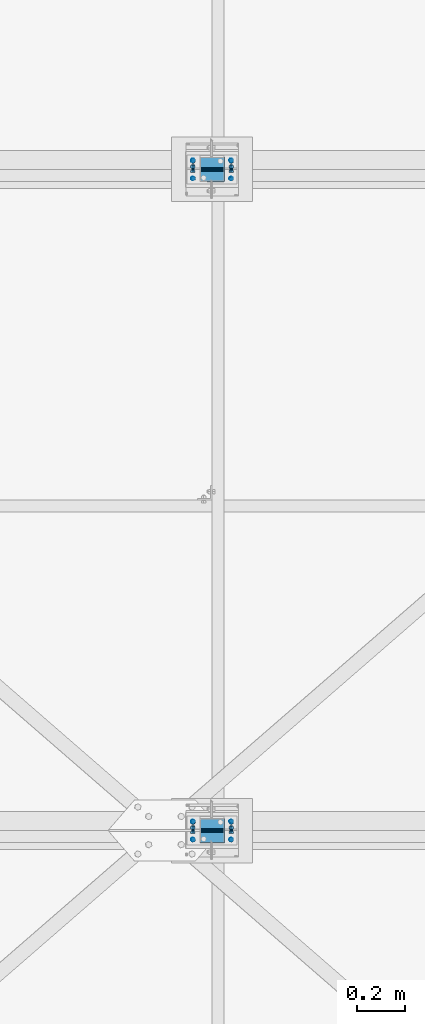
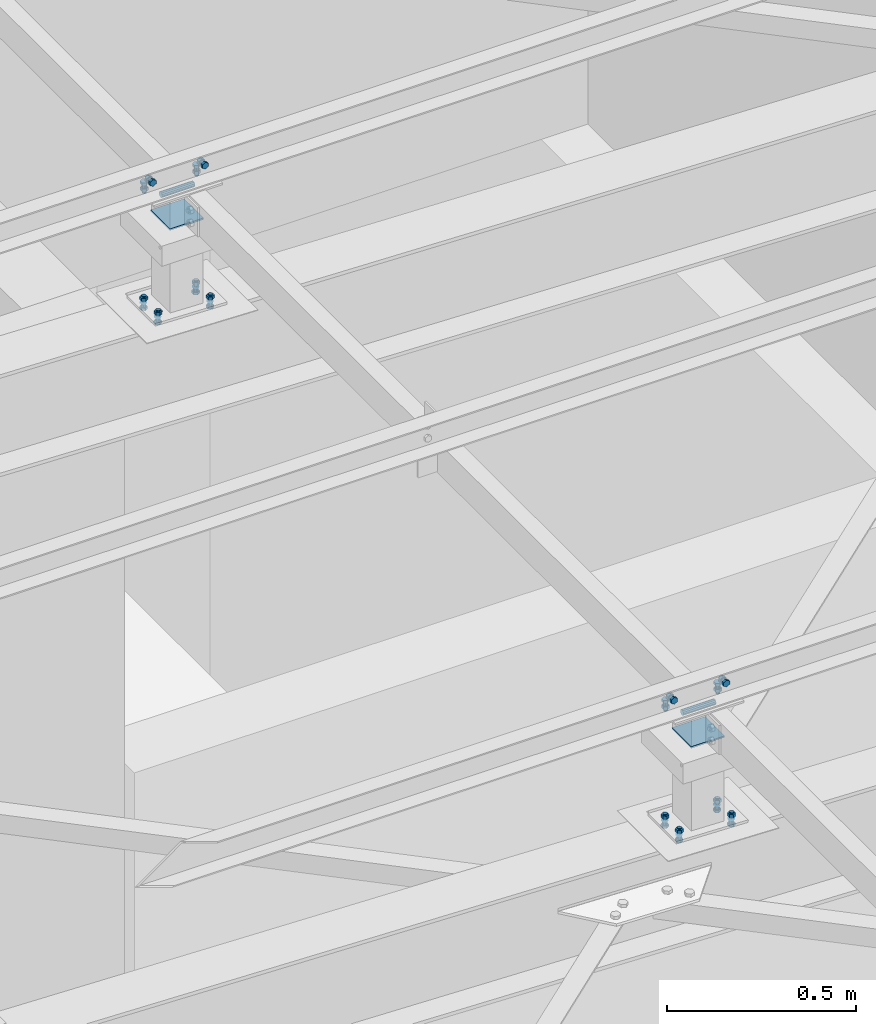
# One storey, part 239 of 3134: 12 mechanical fasteners, 8 elements without a shape of their own.
"""IFC2X3 building model written with IfcOpenShell, lengths in millimetres."""

from ifc_helpers import new_model, si_unit, frame, origin_with_axes, place, context, subcontext, project, spatial, faceted_brep, source, transform, mapped, material, type_object, element, aggregate, save


model = new_model("IFC2X3")

# Units and contexts
model_context = context("Model", 3, precision=1e-05, world=origin_with_axes())
body_context = subcontext(model_context, "Body", "Model", "MODEL_VIEW")
ifc_project = project(units=[si_unit("LENGTHUNIT", "METRE", prefix="MILLI"), si_unit("AREAUNIT", "SQUARE_METRE"), si_unit("VOLUMEUNIT", "CUBIC_METRE"), si_unit("MASSUNIT", "GRAM", prefix="KILO"), si_unit("TIMEUNIT", "SECOND"), si_unit("PLANEANGLEUNIT", "RADIAN"), si_unit("SOLIDANGLEUNIT", "STERADIAN"), si_unit("THERMODYNAMICTEMPERATUREUNIT", "DEGREE_CELSIUS"), si_unit("LUMINOUSINTENSITYUNIT", "LUMEN")], contexts=[model_context])

# Site, building, storey
site_placement = place(None, origin_with_axes())
site = spatial("IfcSite", under=ifc_project, at=site_placement, CompositionType="ELEMENT")
building_placement = place(site_placement, origin_with_axes())
building = spatial("IfcBuilding", under=site, at=building_placement, Name="Undefined", CompositionType="ELEMENT")
storey_placement = place(building_placement, origin_with_axes())
storey = spatial("IfcBuildingStorey", under=building, at=storey_placement, Name="Undefined", CompositionType="ELEMENT", Elevation=0.0)

# Assembly, mechanical fastener
assembly_1_placement = place(storey_placement, origin_with_axes())
assembly_1 = element("IfcElementAssembly", 1, at=assembly_1_placement, inside=storey, AssemblyPlace="NOTDEFINED", PredefinedType="RIGID_FRAME")
ifc_material_1 = material(Name="8.8")
mechanical_fastener_type = type_object("IfcMechanicalFastenerType", Name="Bolt assembly")
shared_shape_1 = source(origin_with_axes(), body_context, "Body", "Brep", [
    faceted_brep([(10.9696551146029, -14.0, 0.0), (5.48482755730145, -14.0, 9.5), (-5.48482755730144, -14.0, 9.5), (-10.9696551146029, -14.0, 1.34339530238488e-15), (-5.48482755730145, -14.0, -9.5), (5.48482755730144, -14.0, -9.50000000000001), (5.48482755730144, -6.0, -9.50000000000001), (-5.48482755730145, -6.0, -9.5), (-10.9696551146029, -6.0, 1.34339530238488e-15), (-5.48482755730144, -6.0, 9.5), (5.48482755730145, -6.0, 9.5), (10.9696551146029, -6.0, 0.0), (6.0, -6.0, 0.0), (5.19615242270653, -6.0, 3.00000000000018), (2.99999999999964, -6.0, 5.19615242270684), (-6.21801588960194e-13, -6.0, 6.0), (-3.00000000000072, -6.0, 5.19615242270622), (-5.19615242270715, -6.0, 2.9999999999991), (-6.0, -6.0, -1.24360317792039e-12), (-5.19615242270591, -6.0, -3.00000000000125), (-2.99999999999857, -6.0, -5.19615242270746), (1.85874342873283e-12, -6.0, -6.0), (3.00000000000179, -6.0, -5.1961524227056), (5.19615242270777, -6.0, -2.99999999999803), (5.19615242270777, 24.0, -2.99999999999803), (3.00000000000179, 24.0, -5.1961524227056), (1.85874342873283e-12, 24.0, -6.0), (-2.99999999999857, 24.0, -5.19615242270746), (-5.19615242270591, 24.0, -3.00000000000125), (-6.0, 24.0, -1.24360317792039e-12), (-5.19615242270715, 24.0, 2.9999999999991), (-3.00000000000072, 24.0, 5.19615242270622), (-6.21801588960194e-13, 24.0, 6.0), (2.99999999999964, 24.0, 5.19615242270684), (5.19615242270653, 24.0, 3.00000000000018), (6.0, 24.0, 0.0), (10.9696551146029, 6.00000000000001, 0.0), (5.48482755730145, 6.00000000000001, 9.5), (-5.48482755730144, 6.00000000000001, 9.5), (-10.9696551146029, 6.00000000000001, 1.34339530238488e-15), (-5.48482755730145, 6.00000000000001, -9.5), (5.48482755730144, 6.00000000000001, -9.50000000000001), (5.48482755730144, 16.0, -9.50000000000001), (-5.48482755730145, 16.0, -9.5), (-10.9696551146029, 16.0, 1.34339530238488e-15), (-5.48482755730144, 16.0, 9.5), (5.48482755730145, 16.0, 9.5), (10.9696551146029, 16.0, 0.0)], [[[0, 1, 2, 3, 4, 5]], [[6, 7, 8, 9, 10, 11]], [[0, 11, 10, 1]], [[1, 10, 9, 2]], [[2, 9, 8, 3]], [[3, 8, 7, 4]], [[4, 7, 6, 5]], [[5, 6, 11, 0]], [[12, 13, 14, 15, 16, 17, 18, 19, 20, 21, 22, 23]], [[24, 25, 26, 27, 28, 29, 30, 31, 32, 33, 34, 35]], [[12, 35, 34, 13]], [[13, 34, 33, 14]], [[14, 33, 32, 15]], [[15, 32, 31, 16]], [[16, 31, 30, 17]], [[17, 30, 29, 18]], [[18, 29, 28, 19]], [[19, 28, 27, 20]], [[20, 27, 26, 21]], [[21, 26, 25, 22]], [[22, 25, 24, 23]], [[23, 24, 35, 12]], [[36, 37, 38, 39, 40, 41]], [[42, 43, 44, 45, 46, 47]], [[36, 47, 46, 37]], [[37, 46, 45, 38]], [[38, 45, 44, 39]], [[39, 44, 43, 40]], [[40, 43, 42, 41]], [[41, 42, 47, 36]]]),
    faceted_brep([(7.0, -0.1, 0.0), (6.06217782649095, -0.1, 3.50000000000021), (3.49999999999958, -0.1, 6.06217782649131), (-7.25435187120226e-13, -0.1, 7.0), (-3.50000000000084, -0.1, 6.06217782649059), (-6.06217782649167, -0.1, 3.49999999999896), (-7.0, -0.1, -1.45087037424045e-12), (-6.06217782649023, -0.1, -3.50000000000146), (-3.49999999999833, -0.1, -6.06217782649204), (2.1685340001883e-12, -0.1, -7.0), (3.50000000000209, -0.1, -6.06217782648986), (6.0621778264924, -0.1, -3.4999999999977), (6.0621778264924, 6.00000000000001, -3.4999999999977), (3.50000000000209, 6.00000000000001, -6.06217782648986), (2.1685340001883e-12, 6.00000000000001, -7.0), (-3.49999999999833, 6.00000000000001, -6.06217782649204), (-6.06217782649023, 6.00000000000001, -3.50000000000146), (-7.0, 6.00000000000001, -1.45087037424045e-12), (-6.06217782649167, 6.00000000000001, 3.49999999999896), (-3.50000000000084, 6.00000000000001, 6.06217782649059), (-7.25435187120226e-13, 6.00000000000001, 7.0), (3.49999999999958, 6.00000000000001, 6.06217782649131), (6.06217782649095, 6.00000000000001, 3.50000000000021), (7.0, 6.00000000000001, 0.0), (7.0, -5.9, 0.0), (6.06217782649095, -5.9, 3.50000000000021), (3.49999999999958, -5.9, 6.06217782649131), (-7.25435187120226e-13, -5.9, 7.0), (-3.50000000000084, -5.9, 6.06217782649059), (-6.06217782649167, -5.9, 3.49999999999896), (-7.0, -5.9, -1.45087037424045e-12), (-6.06217782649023, -5.9, -3.50000000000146), (-3.49999999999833, -5.9, -6.06217782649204), (2.1685340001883e-12, -5.9, -7.0), (3.50000000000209, -5.9, -6.06217782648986), (6.0621778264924, -5.9, -3.4999999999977), (6.0621778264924, 0.0999999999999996, -3.4999999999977), (3.50000000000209, 0.0999999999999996, -6.06217782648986), (2.1685340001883e-12, 0.0999999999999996, -7.0), (-3.49999999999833, 0.0999999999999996, -6.06217782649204), (-6.06217782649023, 0.0999999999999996, -3.50000000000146), (-7.0, 0.0999999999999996, -1.45087037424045e-12), (-6.06217782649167, 0.0999999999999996, 3.49999999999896), (-3.50000000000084, 0.0999999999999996, 6.06217782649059), (-7.25435187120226e-13, 0.0999999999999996, 7.0), (3.49999999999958, 0.0999999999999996, 6.06217782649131), (6.06217782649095, 0.0999999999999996, 3.50000000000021), (7.0, 0.0999999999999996, 0.0)], [[[0, 1, 2, 3, 4, 5, 6, 7, 8, 9, 10, 11]], [[12, 13, 14, 15, 16, 17, 18, 19, 20, 21, 22, 23]], [[0, 23, 22, 1]], [[1, 22, 21, 2]], [[2, 21, 20, 3]], [[3, 20, 19, 4]], [[4, 19, 18, 5]], [[5, 18, 17, 6]], [[6, 17, 16, 7]], [[7, 16, 15, 8]], [[8, 15, 14, 9]], [[9, 14, 13, 10]], [[10, 13, 12, 11]], [[11, 12, 23, 0]], [[24, 25, 26, 27, 28, 29, 30, 31, 32, 33, 34, 35]], [[36, 37, 38, 39, 40, 41, 42, 43, 44, 45, 46, 47]], [[24, 47, 46, 25]], [[25, 46, 45, 26]], [[26, 45, 44, 27]], [[27, 44, 43, 28]], [[28, 43, 42, 29]], [[29, 42, 41, 30]], [[30, 41, 40, 31]], [[31, 40, 39, 32]], [[32, 39, 38, 33]], [[33, 38, 37, 34]], [[34, 37, 36, 35]], [[35, 36, 47, 24]]]),
])
mechanical_fastener_1_placement = place(assembly_1_placement, frame((23191.0, 58255.0, 10865.0), z_axis=(1.0, 0.0, 0.0), x_axis=(0.0, -1.0, 0.0)))
mechanical_fastener_1 = element("IfcMechanicalFastener", 2, at=mechanical_fastener_1_placement, type_object=mechanical_fastener_type, material=ifc_material_1, Name="Bolt assembly", NominalDiameter=12.0, NominalLength=30.0, context=body_context, shape_type="MappedRepresentation", body=[
    mapped(shared_shape_1, transform((0.0, -5.32963895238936e-10, -79.9999999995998))),
    mapped(shared_shape_1, transform((0.0, 5.3114490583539e-10, 79.9999999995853))),
])

assembly_2_placement = place(storey_placement, origin_with_axes())
assembly_2 = element("IfcElementAssembly", 3, at=assembly_2_placement, inside=storey, AssemblyPlace="NOTDEFINED", PredefinedType="RIGID_FRAME")
mechanical_fastener_2_placement = place(assembly_2_placement, frame((23191.0, 61020.0, 10865.0), z_axis=(1.0, 0.0, 0.0), x_axis=(0.0, -1.0, 0.0)))
mechanical_fastener_2 = element("IfcMechanicalFastener", 4, at=mechanical_fastener_2_placement, type_object=mechanical_fastener_type, material=ifc_material_1, Name="Bolt assembly", NominalDiameter=12.0, NominalLength=30.0, context=body_context, shape_type="MappedRepresentation", body=[
    mapped(shared_shape_1, transform((0.0, -5.32963895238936e-10, -79.9999999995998))),
    mapped(shared_shape_1, transform((0.0, 5.3114490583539e-10, 79.9999999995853))),
])

assembly_3_placement = place(storey_placement, origin_with_axes())
assembly_3 = element("IfcElementAssembly", 5, at=assembly_3_placement, inside=storey, AssemblyPlace="NOTDEFINED", PredefinedType="RIGID_FRAME")
shared_shape_2 = source(origin_with_axes(), body_context, "Body", "Brep", [
    faceted_brep([(7.0, 13.0000253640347, 0.0), (6.06217782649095, 13.0000253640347, 3.50000000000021), (3.49999999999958, 13.0000253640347, 6.06217782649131), (-7.25435187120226e-13, 13.0000253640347, 7.0), (-3.50000000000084, 13.0000253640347, 6.06217782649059), (-6.06217782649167, 13.0000253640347, 3.49999999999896), (-7.0, 13.0000253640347, -1.45087037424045e-12), (-6.06217782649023, 13.0000253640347, -3.50000000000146), (-3.49999999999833, 13.0000253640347, -6.06217782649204), (2.1685340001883e-12, 13.0000253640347, -7.0), (3.50000000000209, 13.0000253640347, -6.06217782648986), (6.0621778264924, 13.0000253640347, -3.4999999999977), (6.0621778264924, 15.0999999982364, -3.4999999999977), (3.50000000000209, 15.0999999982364, -6.06217782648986), (2.1685340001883e-12, 15.0999999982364, -7.0), (-3.49999999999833, 15.0999999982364, -6.06217782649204), (-6.06217782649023, 15.0999999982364, -3.50000000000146), (-7.0, 15.0999999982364, -1.45087037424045e-12), (-6.06217782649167, 15.0999999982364, 3.49999999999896), (-3.50000000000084, 15.0999999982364, 6.06217782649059), (-7.25435187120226e-13, 15.0999999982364, 7.0), (3.49999999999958, 15.0999999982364, 6.06217782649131), (6.06217782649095, 15.0999999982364, 3.50000000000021), (7.0, 15.0999999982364, 0.0)], [[[0, 1, 2, 3, 4, 5, 6, 7, 8, 9, 10, 11]], [[12, 13, 14, 15, 16, 17, 18, 19, 20, 21, 22, 23]], [[0, 23, 22, 1]], [[1, 22, 21, 2]], [[2, 21, 20, 3]], [[3, 20, 19, 4]], [[4, 19, 18, 5]], [[5, 18, 17, 6]], [[6, 17, 16, 7]], [[7, 16, 15, 8]], [[8, 15, 14, 9]], [[9, 14, 13, 10]], [[10, 13, 12, 11]], [[11, 12, 23, 0]]]),
])
mechanical_fastener_3_placement = place(assembly_3_placement, frame((23190.2251187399, 58258.0, 10467.1972055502), z_axis=(-0.99951962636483, 0.0, 0.0309922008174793), x_axis=(0.0, -1.0, 0.0)))
mechanical_fastener_3 = element("IfcMechanicalFastener", 6, at=mechanical_fastener_3_placement, type_object=mechanical_fastener_type, material=ifc_material_1, Name="Bolt assembly", NominalDiameter=12.0, NominalLength=2.0, context=body_context, shape_type="MappedRepresentation", body=[
    mapped(shared_shape_2, transform((0.0, -5.32963895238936e-10, -79.9999999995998))),
    mapped(shared_shape_2, transform((76.0, -5.32963895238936e-10, -79.9999999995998))),
    mapped(shared_shape_2, transform((0.0, 5.3114490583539e-10, 79.9999999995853))),
    mapped(shared_shape_2, transform((76.0, 5.3114490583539e-10, 79.9999999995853))),
])
aggregate(assembly_3, [mechanical_fastener_3])

assembly_4_placement = place(storey_placement, origin_with_axes())
assembly_4 = element("IfcElementAssembly", 7, at=assembly_4_placement, inside=storey, AssemblyPlace="NOTDEFINED", PredefinedType="RIGID_FRAME")
mechanical_fastener_4_placement = place(assembly_4_placement, frame((23190.2251187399, 61023.0, 10467.1972055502), z_axis=(-0.99951962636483, 0.0, 0.0309922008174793), x_axis=(0.0, -1.0, 0.0)))
mechanical_fastener_4 = element("IfcMechanicalFastener", 8, at=mechanical_fastener_4_placement, type_object=mechanical_fastener_type, material=ifc_material_1, Name="Bolt assembly", NominalDiameter=12.0, NominalLength=2.0, context=body_context, shape_type="MappedRepresentation", body=[
    mapped(shared_shape_2, transform((0.0, -5.32963895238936e-10, -79.9999999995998))),
    mapped(shared_shape_2, transform((76.0, -5.32963895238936e-10, -79.9999999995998))),
    mapped(shared_shape_2, transform((0.0, 5.3114490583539e-10, 79.9999999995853))),
    mapped(shared_shape_2, transform((76.0, 5.3114490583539e-10, 79.9999999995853))),
])
aggregate(assembly_4, [mechanical_fastener_4])

assembly_5_placement = place(storey_placement, origin_with_axes())
assembly_5 = element("IfcElementAssembly", 9, at=assembly_5_placement, inside=storey, AssemblyPlace="NOTDEFINED", PredefinedType="RIGID_FRAME")
shared_shape_3 = source(origin_with_axes(), body_context, "Body", "Brep", [
    faceted_brep([(9.0, -50.0, 0.0), (7.79422863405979, -50.0, 4.50000000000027), (4.49999999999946, -50.0, 7.79422863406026), (-9.3270238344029e-13, -50.0, 9.0), (-4.50000000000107, -50.0, 7.79422863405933), (-7.79422863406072, -50.0, 4.49999999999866), (-9.0, -50.0, -1.86540476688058e-12), (-7.79422863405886, -50.0, -4.50000000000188), (-4.49999999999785, -50.0, -7.79422863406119), (2.78811514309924e-12, -50.0, -9.0), (4.50000000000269, -50.0, -7.7942286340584), (7.79422863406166, -50.0, -4.49999999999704), (7.79422863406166, 50.1, -4.49999999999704), (4.50000000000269, 50.1, -7.7942286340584), (2.78811514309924e-12, 50.1, -9.0), (-4.49999999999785, 50.1, -7.79422863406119), (-7.79422863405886, 50.1, -4.50000000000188), (-9.0, 50.1, -1.86540476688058e-12), (-7.79422863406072, 50.1, 4.49999999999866), (-4.50000000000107, 50.1, 7.79422863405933), (-9.3270238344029e-13, 50.1, 9.0), (4.49999999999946, 50.1, 7.79422863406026), (7.79422863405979, 50.1, 4.50000000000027), (9.0, 50.1, 0.0)], [[[0, 1, 2, 3, 4, 5, 6, 7, 8, 9, 10, 11]], [[12, 13, 14, 15, 16, 17, 18, 19, 20, 21, 22, 23]], [[0, 23, 22, 1]], [[1, 22, 21, 2]], [[2, 21, 20, 3]], [[3, 20, 19, 4]], [[4, 19, 18, 5]], [[5, 18, 17, 6]], [[6, 17, 16, 7]], [[7, 16, 15, 8]], [[8, 15, 14, 9]], [[9, 14, 13, 10]], [[10, 13, 12, 11]], [[11, 12, 23, 0]]]),
])
mechanical_fastener_5_placement = place(assembly_5_placement, frame((23191.0, 58220.0, 10845.0), z_axis=(0.0, 1.0, 0.0), x_axis=(0.0, 0.0, 1.0)))
mechanical_fastener_5 = element("IfcMechanicalFastener", 10, at=mechanical_fastener_5_placement, type_object=mechanical_fastener_type, material=ifc_material_1, Name="Bolt assembly", NominalDiameter=16.0, NominalLength=100.0, context=body_context, shape_type="MappedRepresentation", body=[
    mapped(shared_shape_3, transform((0.0, 0.0, 0.0))),
])

assembly_6_placement = place(storey_placement, origin_with_axes())
assembly_6 = element("IfcElementAssembly", 11, at=assembly_6_placement, inside=storey, AssemblyPlace="NOTDEFINED", PredefinedType="RIGID_FRAME")
mechanical_fastener_6_placement = place(assembly_6_placement, frame((23191.0, 60985.0, 10845.0), z_axis=(0.0, 1.0, 0.0), x_axis=(0.0, 0.0, 1.0)))
mechanical_fastener_6 = element("IfcMechanicalFastener", 12, at=mechanical_fastener_6_placement, type_object=mechanical_fastener_type, material=ifc_material_1, Name="Bolt assembly", NominalDiameter=16.0, NominalLength=100.0, context=body_context, shape_type="MappedRepresentation", body=[
    mapped(shared_shape_3, transform((0.0, 0.0, 0.0))),
])

# Mechanical fastener
ifc_material_2 = material(Name="6.8")
shared_shape_4 = source(origin_with_axes(), body_context, "Body", "Brep", [
    faceted_brep([(51.5, 1.36424205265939e-12, 50.0), (51.3858192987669, 1.36424205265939e-12, 50.5740251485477), (51.0606601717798, 1.36424205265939e-12, 51.0606601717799), (50.5740251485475, 1.36424205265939e-12, 51.385819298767), (-50.0000000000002, 1.36424205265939e-12, 51.5), (-50.7500000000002, 1.36424205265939e-12, 51.2990381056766), (-51.2990381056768, 1.36424205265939e-12, 50.7499999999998), (-51.5, 1.36424205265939e-12, 49.9999999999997), (-51.5, 1.36424205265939e-12, -50.0000000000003), (-51.2990381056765, 1.36424205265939e-12, -50.7500000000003), (-50.7499999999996, 1.36424205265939e-12, -51.2990381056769), (-49.9999999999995, 1.36424205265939e-12, -51.5), (50.0000000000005, 1.36424205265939e-12, -51.5), (50.7500000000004, 1.36424205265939e-12, -51.2990381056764), (51.2990381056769, 1.36424205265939e-12, -50.7499999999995), (51.5, 1.36424205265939e-12, -49.9999999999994), (51.5, 5.10000000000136, -49.9999999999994), (51.2990381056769, 5.10000000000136, -50.7499999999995), (50.7500000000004, 5.10000000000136, -51.2990381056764), (50.0000000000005, 5.10000000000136, -51.5), (-49.9999999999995, 5.10000000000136, -51.5), (-50.7499999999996, 5.10000000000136, -51.2990381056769), (-51.2990381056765, 5.10000000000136, -50.7500000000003), (-51.5, 5.10000000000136, -50.0000000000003), (-51.5, 5.10000000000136, 49.9999999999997), (-51.2990381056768, 5.10000000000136, 50.7499999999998), (-50.7500000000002, 5.10000000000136, 51.2990381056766), (-50.0000000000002, 5.10000000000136, 51.5), (50.5740251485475, 5.10000000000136, 51.385819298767), (51.0606601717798, 5.10000000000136, 51.0606601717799), (51.3858192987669, 5.10000000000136, 50.5740251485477), (51.5, 5.10000000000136, 50.0)], [[[0, 1, 2, 3, 4, 5, 6, 7, 8, 9, 10, 11, 12, 13, 14, 15]], [[16, 17, 18, 19, 20, 21, 22, 23, 24, 25, 26, 27, 28, 29, 30, 31]], [[0, 31, 30, 1]], [[1, 30, 29, 2]], [[2, 29, 28, 3]], [[3, 28, 27, 4]], [[4, 27, 26, 5]], [[5, 26, 25, 6]], [[6, 25, 24, 7]], [[7, 24, 23, 8]], [[8, 23, 22, 9]], [[9, 22, 21, 10]], [[10, 21, 20, 11]], [[11, 20, 19, 12]], [[12, 19, 18, 13]], [[13, 18, 17, 14]], [[14, 17, 16, 15]], [[15, 16, 31, 0]]]),
])
mechanical_fastener_7_placement = place(assembly_5_placement, frame((23191.0, 58220.0, 10765.0), z_axis=(0.0, -1.0, 0.0), x_axis=(-1.0, 0.0, 0.0)))
mechanical_fastener_7 = element("IfcMechanicalFastener", 13, at=mechanical_fastener_7_placement, type_object=mechanical_fastener_type, material=ifc_material_2, Name="Bolt assembly", NominalDiameter=10.0, NominalLength=5.0, context=body_context, shape_type="MappedRepresentation", body=[
    mapped(shared_shape_4, transform((0.0, 0.0, 0.0))),
])

aggregate(assembly_5, [mechanical_fastener_7, mechanical_fastener_5])

mechanical_fastener_8_placement = place(assembly_6_placement, frame((23191.0, 60985.0, 10765.0), z_axis=(0.0, -1.0, 0.0), x_axis=(-1.0, 0.0, 0.0)))
mechanical_fastener_8 = element("IfcMechanicalFastener", 14, at=mechanical_fastener_8_placement, type_object=mechanical_fastener_type, material=ifc_material_2, Name="Bolt assembly", NominalDiameter=10.0, NominalLength=5.0, context=body_context, shape_type="MappedRepresentation", body=[
    mapped(shared_shape_4, transform((0.0, 0.0, 0.0))),
])

aggregate(assembly_6, [mechanical_fastener_8, mechanical_fastener_6])

shared_shape_5 = source(origin_with_axes(), body_context, "Body", "Brep", [
    faceted_brep([(10.9696551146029, -12.0, 0.0), (5.48482755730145, -12.0, 9.5), (-5.48482755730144, -12.0, 9.5), (-10.9696551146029, -12.0, 1.34339530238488e-15), (-5.48482755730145, -12.0, -9.5), (5.48482755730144, -12.0, -9.50000000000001), (5.48482755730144, -4.0, -9.50000000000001), (-5.48482755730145, -4.0, -9.5), (-10.9696551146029, -4.0, 1.34339530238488e-15), (-5.48482755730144, -4.0, 9.5), (5.48482755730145, -4.0, 9.5), (10.9696551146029, -4.0, 0.0), (6.0, -4.0, 0.0), (5.19615242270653, -4.0, 3.00000000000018), (2.99999999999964, -4.0, 5.19615242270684), (-6.21801588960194e-13, -4.0, 6.0), (-3.00000000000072, -4.0, 5.19615242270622), (-5.19615242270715, -4.0, 2.9999999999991), (-6.0, -4.0, -1.24360317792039e-12), (-5.19615242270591, -4.0, -3.00000000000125), (-2.99999999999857, -4.0, -5.19615242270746), (1.85874342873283e-12, -4.0, -6.0), (3.00000000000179, -4.0, -5.1961524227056), (5.19615242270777, -4.0, -2.99999999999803), (5.19615242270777, 21.0, -2.99999999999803), (3.00000000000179, 21.0, -5.1961524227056), (1.85874342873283e-12, 21.0, -6.0), (-2.99999999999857, 21.0, -5.19615242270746), (-5.19615242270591, 21.0, -3.00000000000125), (-6.0, 21.0, -1.24360317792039e-12), (-5.19615242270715, 21.0, 2.9999999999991), (-3.00000000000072, 21.0, 5.19615242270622), (-6.21801588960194e-13, 21.0, 6.0), (2.99999999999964, 21.0, 5.19615242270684), (5.19615242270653, 21.0, 3.00000000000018), (6.0, 21.0, 0.0), (10.9696551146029, 6.00000000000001, 0.0), (5.48482755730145, 6.00000000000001, 9.5), (-5.48482755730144, 6.00000000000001, 9.5), (-10.9696551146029, 6.00000000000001, 1.34339530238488e-15), (-5.48482755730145, 6.00000000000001, -9.5), (5.48482755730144, 6.00000000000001, -9.50000000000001), (5.48482755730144, 16.0, -9.50000000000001), (-5.48482755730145, 16.0, -9.5), (-10.9696551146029, 16.0, 1.34339530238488e-15), (-5.48482755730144, 16.0, 9.5), (5.48482755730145, 16.0, 9.5), (10.9696551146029, 16.0, 0.0)], [[[0, 1, 2, 3, 4, 5]], [[6, 7, 8, 9, 10, 11]], [[0, 11, 10, 1]], [[1, 10, 9, 2]], [[2, 9, 8, 3]], [[3, 8, 7, 4]], [[4, 7, 6, 5]], [[5, 6, 11, 0]], [[12, 13, 14, 15, 16, 17, 18, 19, 20, 21, 22, 23]], [[24, 25, 26, 27, 28, 29, 30, 31, 32, 33, 34, 35]], [[12, 35, 34, 13]], [[13, 34, 33, 14]], [[14, 33, 32, 15]], [[15, 32, 31, 16]], [[16, 31, 30, 17]], [[17, 30, 29, 18]], [[18, 29, 28, 19]], [[19, 28, 27, 20]], [[20, 27, 26, 21]], [[21, 26, 25, 22]], [[22, 25, 24, 23]], [[23, 24, 35, 12]], [[36, 37, 38, 39, 40, 41]], [[42, 43, 44, 45, 46, 47]], [[36, 47, 46, 37]], [[37, 46, 45, 38]], [[38, 45, 44, 39]], [[39, 44, 43, 40]], [[40, 43, 42, 41]], [[41, 42, 47, 36]]]),
    faceted_brep([(7.0, -3.9, 0.0), (6.06217782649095, -3.9, 3.50000000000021), (3.49999999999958, -3.9, 6.06217782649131), (-7.25435187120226e-13, -3.9, 7.0), (-3.50000000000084, -3.9, 6.06217782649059), (-6.06217782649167, -3.9, 3.49999999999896), (-7.0, -3.9, -1.45087037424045e-12), (-6.06217782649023, -3.9, -3.50000000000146), (-3.49999999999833, -3.9, -6.06217782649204), (2.1685340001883e-12, -3.9, -7.0), (3.50000000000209, -3.9, -6.06217782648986), (6.0621778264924, -3.9, -3.4999999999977), (6.0621778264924, 0.0999999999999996, -3.4999999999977), (3.50000000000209, 0.0999999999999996, -6.06217782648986), (2.1685340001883e-12, 0.0999999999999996, -7.0), (-3.49999999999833, 0.0999999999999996, -6.06217782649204), (-6.06217782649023, 0.0999999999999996, -3.50000000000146), (-7.0, 0.0999999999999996, -1.45087037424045e-12), (-6.06217782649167, 0.0999999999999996, 3.49999999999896), (-3.50000000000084, 0.0999999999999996, 6.06217782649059), (-7.25435187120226e-13, 0.0999999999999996, 7.0), (3.49999999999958, 0.0999999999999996, 6.06217782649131), (6.06217782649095, 0.0999999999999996, 3.50000000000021), (7.0, 0.0999999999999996, 0.0), (7.0, -0.1, 0.0), (6.06217782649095, -0.1, 3.50000000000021), (3.49999999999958, -0.1, 6.06217782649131), (-7.25435187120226e-13, -0.1, 7.0), (-3.50000000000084, -0.1, 6.06217782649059), (-6.06217782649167, -0.1, 3.49999999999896), (-7.0, -0.1, -1.45087037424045e-12), (-6.06217782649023, -0.1, -3.50000000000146), (-3.49999999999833, -0.1, -6.06217782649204), (2.1685340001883e-12, -0.1, -7.0), (3.50000000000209, -0.1, -6.06217782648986), (6.0621778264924, -0.1, -3.4999999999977), (6.0621778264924, 6.00000000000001, -3.4999999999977), (3.50000000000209, 6.00000000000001, -6.06217782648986), (2.1685340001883e-12, 6.00000000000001, -7.0), (-3.49999999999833, 6.00000000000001, -6.06217782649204), (-6.06217782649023, 6.00000000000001, -3.50000000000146), (-7.0, 6.00000000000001, -1.45087037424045e-12), (-6.06217782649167, 6.00000000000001, 3.49999999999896), (-3.50000000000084, 6.00000000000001, 6.06217782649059), (-7.25435187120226e-13, 6.00000000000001, 7.0), (3.49999999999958, 6.00000000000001, 6.06217782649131), (6.06217782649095, 6.00000000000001, 3.50000000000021), (7.0, 6.00000000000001, 0.0)], [[[0, 1, 2, 3, 4, 5, 6, 7, 8, 9, 10, 11]], [[12, 13, 14, 15, 16, 17, 18, 19, 20, 21, 22, 23]], [[0, 23, 22, 1]], [[1, 22, 21, 2]], [[2, 21, 20, 3]], [[3, 20, 19, 4]], [[4, 19, 18, 5]], [[5, 18, 17, 6]], [[6, 17, 16, 7]], [[7, 16, 15, 8]], [[8, 15, 14, 9]], [[9, 14, 13, 10]], [[10, 13, 12, 11]], [[11, 12, 23, 0]], [[24, 25, 26, 27, 28, 29, 30, 31, 32, 33, 34, 35]], [[36, 37, 38, 39, 40, 41, 42, 43, 44, 45, 46, 47]], [[24, 47, 46, 25]], [[25, 46, 45, 26]], [[26, 45, 44, 27]], [[27, 44, 43, 28]], [[28, 43, 42, 29]], [[29, 42, 41, 30]], [[30, 41, 40, 31]], [[31, 40, 39, 32]], [[32, 39, 38, 33]], [[33, 38, 37, 34]], [[34, 37, 36, 35]], [[35, 36, 47, 24]]]),
])
mechanical_fastener_9_placement = place(assembly_1_placement, frame((23191.0, 58220.0, 10900.0), z_axis=(1.0, 0.0, 0.0), x_axis=(0.0, 0.0, -1.0)))
mechanical_fastener_9 = element("IfcMechanicalFastener", 15, at=mechanical_fastener_9_placement, type_object=mechanical_fastener_type, material=ifc_material_1, Name="Bolt assembly", NominalDiameter=12.0, NominalLength=25.0, context=body_context, shape_type="MappedRepresentation", body=[
    mapped(shared_shape_5, transform((0.0, -5.32963895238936e-10, -79.9999999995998))),
    mapped(shared_shape_5, transform((0.0, 5.3114490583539e-10, 79.9999999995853))),
])

aggregate(assembly_1, [mechanical_fastener_9, mechanical_fastener_1])

mechanical_fastener_10_placement = place(assembly_2_placement, frame((23191.0, 60985.0, 10900.0), z_axis=(1.0, 0.0, 0.0), x_axis=(0.0, 0.0, -1.0)))
mechanical_fastener_10 = element("IfcMechanicalFastener", 16, at=mechanical_fastener_10_placement, type_object=mechanical_fastener_type, material=ifc_material_1, Name="Bolt assembly", NominalDiameter=12.0, NominalLength=25.0, context=body_context, shape_type="MappedRepresentation", body=[
    mapped(shared_shape_5, transform((0.0, -5.32963895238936e-10, -79.9999999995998))),
    mapped(shared_shape_5, transform((0.0, 5.3114490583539e-10, 79.9999999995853))),
])

aggregate(assembly_2, [mechanical_fastener_10, mechanical_fastener_2])

# Assembly, mechanical fastener
assembly_7_placement = place(storey_placement, origin_with_axes())
assembly_7 = element("IfcElementAssembly", 17, at=assembly_7_placement, inside=storey, Name="IPE330", AssemblyPlace="NOTDEFINED", PredefinedType="RIGID_FRAME")
shared_shape_6 = source(origin_with_axes(), body_context, "Body", "Brep", [
    faceted_brep([(10.9696551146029, -6.48983494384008, 0.0), (5.48482755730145, -6.48983494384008, 9.5), (-5.48482755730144, -6.48983494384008, 9.5), (-10.9696551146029, -6.48983494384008, 1.34339530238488e-15), (-5.48482755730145, -6.48983494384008, -9.5), (5.48482755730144, -6.48983494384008, -9.50000000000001), (5.48482755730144, 1.51016505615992, -9.50000000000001), (-5.48482755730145, 1.51016505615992, -9.5), (-10.9696551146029, 1.51016505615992, 1.34339530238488e-15), (-5.48482755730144, 1.51016505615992, 9.5), (5.48482755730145, 1.51016505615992, 9.5), (10.9696551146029, 1.51016505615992, 0.0), (6.0, 1.51016505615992, 0.0), (5.19615242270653, 1.51016505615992, 3.00000000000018), (2.99999999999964, 1.51016505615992, 5.19615242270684), (-6.21801588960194e-13, 1.51016505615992, 6.0), (-3.00000000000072, 1.51016505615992, 5.19615242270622), (-5.19615242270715, 1.51016505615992, 2.9999999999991), (-6.0, 1.51016505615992, -1.24360317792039e-12), (-5.19615242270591, 1.51016505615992, -3.00000000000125), (-2.99999999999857, 1.51016505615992, -5.19615242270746), (1.85874342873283e-12, 1.51016505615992, -6.0), (3.00000000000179, 1.51016505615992, -5.1961524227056), (5.19615242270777, 1.51016505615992, -2.99999999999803), (5.19615242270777, 36.5101650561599, -2.99999999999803), (3.00000000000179, 36.5101650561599, -5.1961524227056), (1.85874342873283e-12, 36.5101650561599, -6.0), (-2.99999999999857, 36.5101650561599, -5.19615242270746), (-5.19615242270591, 36.5101650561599, -3.00000000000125), (-6.0, 36.5101650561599, -1.24360317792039e-12), (-5.19615242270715, 36.5101650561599, 2.9999999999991), (-3.00000000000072, 36.5101650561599, 5.19615242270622), (-6.21801588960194e-13, 36.5101650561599, 6.0), (2.99999999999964, 36.5101650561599, 5.19615242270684), (5.19615242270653, 36.5101650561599, 3.00000000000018), (6.0, 36.5101650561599, 0.0), (10.9696551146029, 23.0039050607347, 0.0), (5.48482755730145, 23.0039050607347, 9.5), (-5.48482755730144, 23.0039050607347, 9.5), (-10.9696551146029, 23.0039050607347, 1.34339530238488e-15), (-5.48482755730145, 23.0039050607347, -9.5), (5.48482755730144, 23.0039050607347, -9.50000000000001), (5.48482755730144, 33.0039050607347, -9.50000000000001), (-5.48482755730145, 33.0039050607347, -9.5), (-10.9696551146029, 33.0039050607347, 1.34339530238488e-15), (-5.48482755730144, 33.0039050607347, 9.5), (5.48482755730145, 33.0039050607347, 9.5), (10.9696551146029, 33.0039050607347, 0.0)], [[[0, 1, 2, 3, 4, 5]], [[6, 7, 8, 9, 10, 11]], [[0, 11, 10, 1]], [[1, 10, 9, 2]], [[2, 9, 8, 3]], [[3, 8, 7, 4]], [[4, 7, 6, 5]], [[5, 6, 11, 0]], [[12, 13, 14, 15, 16, 17, 18, 19, 20, 21, 22, 23]], [[24, 25, 26, 27, 28, 29, 30, 31, 32, 33, 34, 35]], [[12, 35, 34, 13]], [[13, 34, 33, 14]], [[14, 33, 32, 15]], [[15, 32, 31, 16]], [[16, 31, 30, 17]], [[17, 30, 29, 18]], [[18, 29, 28, 19]], [[19, 28, 27, 20]], [[20, 27, 26, 21]], [[21, 26, 25, 22]], [[22, 25, 24, 23]], [[23, 24, 35, 12]], [[36, 37, 38, 39, 40, 41]], [[42, 43, 44, 45, 46, 47]], [[36, 47, 46, 37]], [[37, 46, 45, 38]], [[38, 45, 44, 39]], [[39, 44, 43, 40]], [[40, 43, 42, 41]], [[41, 42, 47, 36]]]),
    faceted_brep([(7.0, 14.9039050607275, 0.0), (6.06217782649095, 14.9039050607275, 3.50000000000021), (3.49999999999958, 14.9039050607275, 6.06217782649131), (-7.25435187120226e-13, 14.9039050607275, 7.0), (-3.50000000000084, 14.9039050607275, 6.06217782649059), (-6.06217782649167, 14.9039050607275, 3.49999999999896), (-7.0, 14.9039050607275, -1.45087037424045e-12), (-6.06217782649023, 14.9039050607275, -3.50000000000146), (-3.49999999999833, 14.9039050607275, -6.06217782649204), (2.1685340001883e-12, 14.9039050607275, -7.0), (3.50000000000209, 14.9039050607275, -6.06217782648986), (6.0621778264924, 14.9039050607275, -3.4999999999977), (6.0621778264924, 23.0039050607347, -3.4999999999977), (3.50000000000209, 23.0039050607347, -6.06217782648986), (2.1685340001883e-12, 23.0039050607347, -7.0), (-3.49999999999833, 23.0039050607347, -6.06217782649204), (-6.06217782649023, 23.0039050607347, -3.50000000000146), (-7.0, 23.0039050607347, -1.45087037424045e-12), (-6.06217782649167, 23.0039050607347, 3.49999999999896), (-3.50000000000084, 23.0039050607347, 6.06217782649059), (-7.25435187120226e-13, 23.0039050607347, 7.0), (3.49999999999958, 23.0039050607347, 6.06217782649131), (6.06217782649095, 23.0039050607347, 3.50000000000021), (7.0, 23.0039050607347, 0.0), (7.0, 1.61016505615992, 0.0), (6.06217782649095, 1.61016505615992, 3.50000000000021), (3.49999999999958, 1.61016505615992, 6.06217782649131), (-7.25435187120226e-13, 1.61016505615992, 7.0), (-3.50000000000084, 1.61016505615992, 6.06217782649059), (-6.06217782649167, 1.61016505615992, 3.49999999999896), (-7.0, 1.61016505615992, -1.45087037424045e-12), (-6.06217782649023, 1.61016505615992, -3.50000000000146), (-3.49999999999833, 1.61016505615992, -6.06217782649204), (2.1685340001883e-12, 1.61016505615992, -7.0), (3.50000000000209, 1.61016505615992, -6.06217782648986), (6.0621778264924, 1.61016505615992, -3.4999999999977), (6.0621778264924, 13.1101650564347, -3.4999999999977), (3.50000000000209, 13.1101650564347, -6.06217782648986), (2.1685340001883e-12, 13.1101650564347, -7.0), (-3.49999999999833, 13.1101650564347, -6.06217782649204), (-6.06217782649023, 13.1101650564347, -3.50000000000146), (-7.0, 13.1101650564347, -1.45087037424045e-12), (-6.06217782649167, 13.1101650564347, 3.49999999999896), (-3.50000000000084, 13.1101650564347, 6.06217782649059), (-7.25435187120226e-13, 13.1101650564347, 7.0), (3.49999999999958, 13.1101650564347, 6.06217782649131), (6.06217782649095, 13.1101650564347, 3.50000000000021), (7.0, 13.1101650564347, 0.0)], [[[0, 1, 2, 3, 4, 5, 6, 7, 8, 9, 10, 11]], [[12, 13, 14, 15, 16, 17, 18, 19, 20, 21, 22, 23]], [[0, 23, 22, 1]], [[1, 22, 21, 2]], [[2, 21, 20, 3]], [[3, 20, 19, 4]], [[4, 19, 18, 5]], [[5, 18, 17, 6]], [[6, 17, 16, 7]], [[7, 16, 15, 8]], [[8, 15, 14, 9]], [[9, 14, 13, 10]], [[10, 13, 12, 11]], [[11, 12, 23, 0]], [[24, 25, 26, 27, 28, 29, 30, 31, 32, 33, 34, 35]], [[36, 37, 38, 39, 40, 41, 42, 43, 44, 45, 46, 47]], [[24, 47, 46, 25]], [[25, 46, 45, 26]], [[26, 45, 44, 27]], [[27, 44, 43, 28]], [[28, 43, 42, 29]], [[29, 42, 41, 30]], [[30, 41, 40, 31]], [[31, 40, 39, 32]], [[32, 39, 38, 33]], [[33, 38, 37, 34]], [[34, 37, 36, 35]], [[35, 36, 47, 24]]]),
])
mechanical_fastener_11_placement = place(assembly_7_placement, frame((23190.2251187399, 58258.0, 10467.1972055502), z_axis=(-0.99951962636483, 0.0, 0.0309922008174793), x_axis=(0.0, -1.0, 0.0)))
mechanical_fastener_11 = element("IfcMechanicalFastener", 18, at=mechanical_fastener_11_placement, type_object=mechanical_fastener_type, material=ifc_material_1, Name="Bolt assembly", NominalDiameter=12.0, NominalLength=35.0, context=body_context, shape_type="MappedRepresentation", body=[
    mapped(shared_shape_6, transform((0.0, -5.32963895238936e-10, -79.9999999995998))),
    mapped(shared_shape_6, transform((76.0, -5.32963895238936e-10, -79.9999999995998))),
    mapped(shared_shape_6, transform((0.0, 5.3114490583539e-10, 79.9999999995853))),
    mapped(shared_shape_6, transform((76.0, 5.3114490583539e-10, 79.9999999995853))),
])
aggregate(assembly_7, [mechanical_fastener_11])

assembly_8_placement = place(storey_placement, origin_with_axes())
assembly_8 = element("IfcElementAssembly", 19, at=assembly_8_placement, inside=storey, Name="IPE330", AssemblyPlace="NOTDEFINED", PredefinedType="RIGID_FRAME")
mechanical_fastener_12_placement = place(assembly_8_placement, frame((23190.2251187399, 61023.0, 10467.1972055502), z_axis=(-0.99951962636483, 0.0, 0.0309922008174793), x_axis=(0.0, -1.0, 0.0)))
mechanical_fastener_12 = element("IfcMechanicalFastener", 20, at=mechanical_fastener_12_placement, type_object=mechanical_fastener_type, material=ifc_material_1, Name="Bolt assembly", NominalDiameter=12.0, NominalLength=35.0, context=body_context, shape_type="MappedRepresentation", body=[
    mapped(shared_shape_6, transform((0.0, -5.32963895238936e-10, -79.9999999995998))),
    mapped(shared_shape_6, transform((76.0, -5.32963895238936e-10, -79.9999999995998))),
    mapped(shared_shape_6, transform((0.0, 5.3114490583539e-10, 79.9999999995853))),
    mapped(shared_shape_6, transform((76.0, 5.3114490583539e-10, 79.9999999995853))),
])
aggregate(assembly_8, [mechanical_fastener_12])

save(model, "model.ifc")
